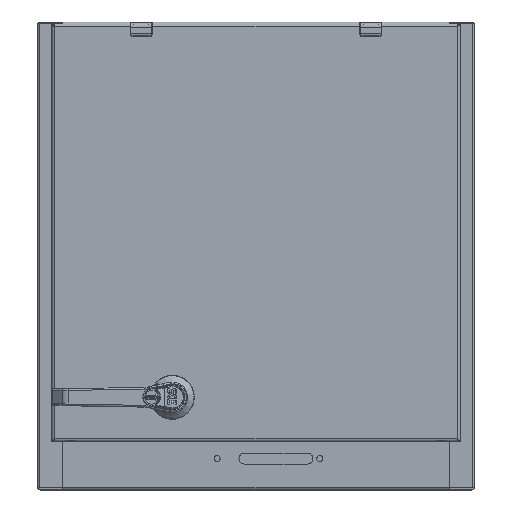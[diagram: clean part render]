
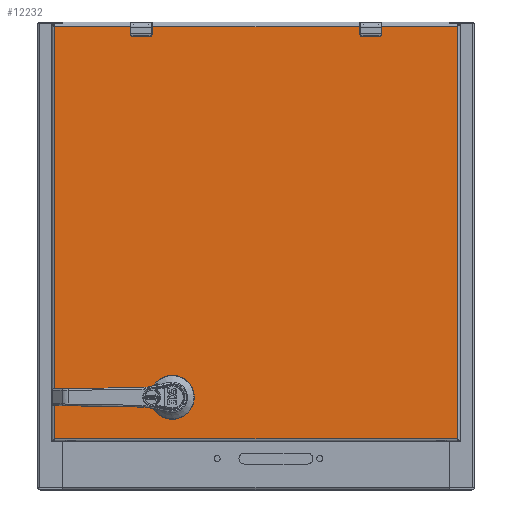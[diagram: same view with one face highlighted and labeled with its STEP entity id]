
A CAD part, top view. The second image highlights one B-rep face of the part: STEP entity #12232.
In plain terms, the highlighted planar face has unit normal (0, 0, 1).
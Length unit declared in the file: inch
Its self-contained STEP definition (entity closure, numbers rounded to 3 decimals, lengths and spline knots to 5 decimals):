
#8791=CARTESIAN_POINT('',(7.525,-4.915,0.));
#8792=DIRECTION('',(0.,0.,1.));
#8793=DIRECTION('',(-1.,0.,0.));
#8794=AXIS2_PLACEMENT_3D('',#8791,#8792,#8793);
#8799=CARTESIAN_POINT('',(7.525,-4.915,0.));
#8800=DIRECTION('',(0.,0.,1.));
#8801=DIRECTION('',(1.,0.,0.));
#8802=AXIS2_PLACEMENT_3D('',#8799,#8800,#8801);
#8807=DIRECTION('',(1.,0.,0.));
#8808=VECTOR('',#8807,0.39715);
#8809=CARTESIAN_POINT('',(7.32642,-3.429,0.));
#8810=LINE('',#8809,#8808);
#8814=CARTESIAN_POINT('',(7.525,-3.825,0.));
#8815=DIRECTION('',(0.,0.,1.));
#8816=DIRECTION('',(-0.448,0.894,0.));
#8817=AXIS2_PLACEMENT_3D('',#8814,#8815,#8816);
#8822=DIRECTION('',(0.,1.,0.));
#8823=VECTOR('',#8822,0.39715);
#8824=CARTESIAN_POINT('',(7.129,-4.02358,0.));
#8825=LINE('',#8824,#8823);
#8829=CARTESIAN_POINT('',(7.525,-3.825,0.));
#8830=DIRECTION('',(0.,0.,1.));
#8831=DIRECTION('',(-0.894,-0.448,0.));
#8832=AXIS2_PLACEMENT_3D('',#8829,#8830,#8831);
#8837=DIRECTION('',(-1.,0.,0.));
#8838=VECTOR('',#8837,0.39715);
#8839=CARTESIAN_POINT('',(7.72358,-4.221,0.));
#8840=LINE('',#8839,#8838);
#8844=CARTESIAN_POINT('',(7.525,-3.825,0.));
#8845=DIRECTION('',(0.,0.,1.));
#8846=DIRECTION('',(0.448,-0.894,0.));
#8847=AXIS2_PLACEMENT_3D('',#8844,#8845,#8846);
#8852=DIRECTION('',(0.,-1.,0.));
#8853=VECTOR('',#8852,0.39715);
#8854=CARTESIAN_POINT('',(7.921,-3.62642,0.));
#8855=LINE('',#8854,#8853);
#8859=CARTESIAN_POINT('',(7.525,-3.825,0.));
#8860=DIRECTION('',(0.,0.,1.));
#8861=DIRECTION('',(0.894,0.448,0.));
#8862=AXIS2_PLACEMENT_3D('',#8859,#8860,#8861);
#8867=DIRECTION('',(1.,0.,0.));
#8868=VECTOR('',#8867,0.3629);
#8869=CARTESIAN_POINT('',(-9.4205,-5.595,0.));
#8870=LINE('',#8869,#8868);
#8874=DIRECTION('',(0.,1.,0.));
#8875=VECTOR('',#8874,0.63);
#8876=CARTESIAN_POINT('',(-9.0276,-5.565,0.));
#8877=LINE('',#8876,#8875);
#8881=DIRECTION('',(1.,0.,0.));
#8882=VECTOR('',#8881,0.3629);
#8883=CARTESIAN_POINT('',(-9.4205,-4.905,0.));
#8884=LINE('',#8883,#8882);
#8888=DIRECTION('',(1.,0.,0.));
#8889=VECTOR('',#8888,0.3629);
#8890=CARTESIAN_POINT('',(-9.4205,4.905,0.));
#8891=LINE('',#8890,#8889);
#8895=DIRECTION('',(0.,1.,0.));
#8896=VECTOR('',#8895,0.63);
#8897=CARTESIAN_POINT('',(-9.0276,4.935,0.));
#8898=LINE('',#8897,#8896);
#8902=DIRECTION('',(1.,0.,0.));
#8903=VECTOR('',#8902,0.3629);
#8904=CARTESIAN_POINT('',(-9.4205,5.595,0.));
#8905=LINE('',#8904,#8903);
#9486=DIRECTION('',(0.,-1.,0.));
#9487=VECTOR('',#9486,18.416);
#9488=CARTESIAN_POINT('',(9.4205,9.208,0.));
#9489=LINE('',#9488,#9487);
#9562=DIRECTION('',(1.,0.,0.));
#9563=VECTOR('',#9562,18.841);
#9564=CARTESIAN_POINT('',(-9.4205,9.208,0.));
#9565=LINE('',#9564,#9563);
#9698=DIRECTION('',(0.,1.,0.));
#9699=VECTOR('',#9698,9.81);
#9700=CARTESIAN_POINT('',(-9.4205,-4.905,0.));
#9701=LINE('',#9700,#9699);
#9705=CARTESIAN_POINT('',(-9.4205,9.208,0.));
#9746=DIRECTION('',(0.,1.,0.));
#9747=VECTOR('',#9746,3.613);
#9748=CARTESIAN_POINT('',(-9.4205,5.595,0.));
#9749=LINE('',#9748,#9747);
#9824=DIRECTION('',(0.,1.,0.));
#9825=VECTOR('',#9824,3.613);
#9826=CARTESIAN_POINT('',(-9.4205,-9.208,0.));
#9827=LINE('',#9826,#9825);
#9845=CARTESIAN_POINT('',(-9.0576,-4.935,0.));
#9846=DIRECTION('',(0.,0.,-1.));
#9847=DIRECTION('',(0.,1.,0.));
#9848=AXIS2_PLACEMENT_3D('',#9845,#9846,#9847);
#9875=CARTESIAN_POINT('',(-9.0576,-5.565,0.));
#9876=DIRECTION('',(0.,0.,-1.));
#9877=DIRECTION('',(1.,0.,0.));
#9878=AXIS2_PLACEMENT_3D('',#9875,#9876,#9877);
#10217=DIRECTION('',(-1.,0.,0.));
#10218=VECTOR('',#10217,18.841);
#10219=CARTESIAN_POINT('',(9.4205,-9.208,0.));
#10220=LINE('',#10219,#10218);
#10486=CARTESIAN_POINT('',(-9.0576,4.935,0.));
#10487=DIRECTION('',(0.,0.,-1.));
#10488=DIRECTION('',(1.,0.,0.));
#10489=AXIS2_PLACEMENT_3D('',#10486,#10487,#10488);
#10516=CARTESIAN_POINT('',(-9.0576,5.565,0.));
#10517=DIRECTION('',(0.,0.,-1.));
#10518=DIRECTION('',(0.,1.,0.));
#10519=AXIS2_PLACEMENT_3D('',#10516,#10517,#10518);
#11747=CARTESIAN_POINT('',(9.4205,9.208,0.));
#11748=CARTESIAN_POINT('',(9.4205,-9.208,0.));
#11749=VERTEX_POINT('',#11747);
#11750=VERTEX_POINT('',#11748);
#11875=CARTESIAN_POINT('',(7.4,-4.915,0.));
#11876=CARTESIAN_POINT('',(7.65,-4.915,0.));
#11877=VERTEX_POINT('',#11875);
#11878=VERTEX_POINT('',#11876);
#11879=CARTESIAN_POINT('',(7.32642,-3.429,0.));
#11880=CARTESIAN_POINT('',(7.72358,-3.429,0.));
#11881=VERTEX_POINT('',#11879);
#11882=VERTEX_POINT('',#11880);
#11883=CARTESIAN_POINT('',(7.921,-3.62642,0.));
#11884=VERTEX_POINT('',#11883);
#11885=CARTESIAN_POINT('',(7.921,-4.02358,0.));
#11886=VERTEX_POINT('',#11885);
#11887=CARTESIAN_POINT('',(7.72358,-4.221,0.));
#11888=VERTEX_POINT('',#11887);
#11889=CARTESIAN_POINT('',(7.32642,-4.221,0.));
#11890=VERTEX_POINT('',#11889);
#11891=CARTESIAN_POINT('',(7.129,-4.02358,0.));
#11892=VERTEX_POINT('',#11891);
#11893=CARTESIAN_POINT('',(7.129,-3.62642,0.));
#11894=VERTEX_POINT('',#11893);
#11945=VERTEX_POINT('',#9705);
#11950=CARTESIAN_POINT('',(-9.4205,-9.208,0.));
#11952=VERTEX_POINT('',#11950);
#12073=CARTESIAN_POINT('',(-9.4205,5.595,0.));
#12075=VERTEX_POINT('',#12073);
#12077=CARTESIAN_POINT('',(-9.4205,4.905,0.));
#12079=VERTEX_POINT('',#12077);
#12089=CARTESIAN_POINT('',(-9.4205,-4.905,0.));
#12091=VERTEX_POINT('',#12089);
#12093=CARTESIAN_POINT('',(-9.4205,-5.595,0.));
#12095=VERTEX_POINT('',#12093);
#12105=CARTESIAN_POINT('',(-9.0576,5.595,0.));
#12107=VERTEX_POINT('',#12105);
#12109=CARTESIAN_POINT('',(-9.0276,5.565,0.));
#12111=VERTEX_POINT('',#12109);
#12113=CARTESIAN_POINT('',(-9.0276,4.935,0.));
#12115=VERTEX_POINT('',#12113);
#12117=CARTESIAN_POINT('',(-9.0576,4.905,0.));
#12119=VERTEX_POINT('',#12117);
#12137=CARTESIAN_POINT('',(-9.0576,-4.905,0.));
#12139=VERTEX_POINT('',#12137);
#12141=CARTESIAN_POINT('',(-9.0276,-4.935,0.));
#12143=VERTEX_POINT('',#12141);
#12145=CARTESIAN_POINT('',(-9.0276,-5.565,0.));
#12147=VERTEX_POINT('',#12145);
#12149=CARTESIAN_POINT('',(-9.0576,-5.595,0.));
#12151=VERTEX_POINT('',#12149);
#12169=CARTESIAN_POINT('',(0.,0.,0.));
#12170=DIRECTION('',(0.,0.,-1.));
#12171=DIRECTION('',(1.,0.,0.));
#12172=AXIS2_PLACEMENT_3D('',#12169,#12170,#12171);
#12173=PLANE('',#12172);
#12175=ORIENTED_EDGE('',*,*,#12174,.T.);
#12177=ORIENTED_EDGE('',*,*,#12176,.T.);
#12179=ORIENTED_EDGE('',*,*,#12178,.T.);
#12181=ORIENTED_EDGE('',*,*,#12180,.F.);
#12183=ORIENTED_EDGE('',*,*,#12182,.T.);
#12185=ORIENTED_EDGE('',*,*,#12184,.F.);
#12187=ORIENTED_EDGE('',*,*,#12186,.F.);
#12189=ORIENTED_EDGE('',*,*,#12188,.T.);
#12191=ORIENTED_EDGE('',*,*,#12190,.T.);
#12193=ORIENTED_EDGE('',*,*,#12192,.F.);
#12195=ORIENTED_EDGE('',*,*,#12194,.T.);
#12197=ORIENTED_EDGE('',*,*,#12196,.F.);
#12199=ORIENTED_EDGE('',*,*,#12198,.F.);
#12201=ORIENTED_EDGE('',*,*,#12200,.T.);
#12203=ORIENTED_EDGE('',*,*,#12202,.T.);
#12205=ORIENTED_EDGE('',*,*,#12204,.T.);
#12206=EDGE_LOOP('',(#12175,#12177,#12179,#12181,#12183,#12185,#12187,#12189,
#12191,#12193,#12195,#12197,#12199,#12201,#12203,#12205));
#12207=FACE_OUTER_BOUND('',#12206,.F.);
#12209=ORIENTED_EDGE('',*,*,#12208,.F.);
#12211=ORIENTED_EDGE('',*,*,#12210,.T.);
#12213=ORIENTED_EDGE('',*,*,#12212,.F.);
#12215=ORIENTED_EDGE('',*,*,#12214,.T.);
#12217=ORIENTED_EDGE('',*,*,#12216,.F.);
#12219=ORIENTED_EDGE('',*,*,#12218,.T.);
#12221=ORIENTED_EDGE('',*,*,#12220,.F.);
#12223=ORIENTED_EDGE('',*,*,#12222,.T.);
#12224=EDGE_LOOP('',(#12209,#12211,#12213,#12215,#12217,#12219,#12221,#12223));
#12225=FACE_BOUND('',#12224,.F.);
#12227=ORIENTED_EDGE('',*,*,#12226,.T.);
#12229=ORIENTED_EDGE('',*,*,#12228,.T.);
#12230=EDGE_LOOP('',(#12227,#12229));
#12231=FACE_BOUND('',#12230,.F.);
#8795=CIRCLE('',#8794,0.125);
#8803=CIRCLE('',#8802,0.125);
#8818=CIRCLE('',#8817,0.443);
#8833=CIRCLE('',#8832,0.443);
#8848=CIRCLE('',#8847,0.443);
#8863=CIRCLE('',#8862,0.443);
#9849=CIRCLE('',#9848,0.03);
#9879=CIRCLE('',#9878,0.03);
#10490=CIRCLE('',#10489,0.03);
#10520=CIRCLE('',#10519,0.03);
#12174=EDGE_CURVE('',#11750,#11952,#10220,.T.);
#12176=EDGE_CURVE('',#11952,#12095,#9827,.T.);
#12178=EDGE_CURVE('',#12095,#12151,#8870,.T.);
#12180=EDGE_CURVE('',#12147,#12151,#9879,.T.);
#12182=EDGE_CURVE('',#12147,#12143,#8877,.T.);
#12184=EDGE_CURVE('',#12139,#12143,#9849,.T.);
#12186=EDGE_CURVE('',#12091,#12139,#8884,.T.);
#12188=EDGE_CURVE('',#12091,#12079,#9701,.T.);
#12190=EDGE_CURVE('',#12079,#12119,#8891,.T.);
#12192=EDGE_CURVE('',#12115,#12119,#10490,.T.);
#12194=EDGE_CURVE('',#12115,#12111,#8898,.T.);
#12196=EDGE_CURVE('',#12107,#12111,#10520,.T.);
#12198=EDGE_CURVE('',#12075,#12107,#8905,.T.);
#12200=EDGE_CURVE('',#12075,#11945,#9749,.T.);
#12202=EDGE_CURVE('',#11945,#11749,#9565,.T.);
#12204=EDGE_CURVE('',#11749,#11750,#9489,.T.);
#12208=EDGE_CURVE('',#11881,#11882,#8810,.T.);
#12210=EDGE_CURVE('',#11881,#11894,#8818,.T.);
#12212=EDGE_CURVE('',#11892,#11894,#8825,.T.);
#12214=EDGE_CURVE('',#11892,#11890,#8833,.T.);
#12216=EDGE_CURVE('',#11888,#11890,#8840,.T.);
#12218=EDGE_CURVE('',#11888,#11886,#8848,.T.);
#12220=EDGE_CURVE('',#11884,#11886,#8855,.T.);
#12222=EDGE_CURVE('',#11884,#11882,#8863,.T.);
#12226=EDGE_CURVE('',#11877,#11878,#8795,.T.);
#12228=EDGE_CURVE('',#11878,#11877,#8803,.T.);
#12232=ADVANCED_FACE('',(#12207,#12225,#12231),#12173,.F.);
